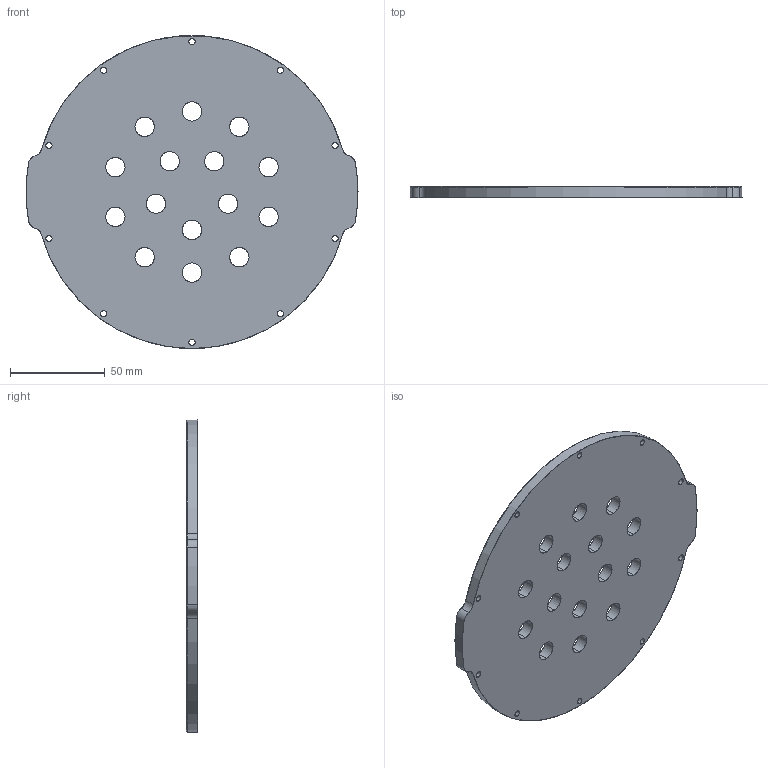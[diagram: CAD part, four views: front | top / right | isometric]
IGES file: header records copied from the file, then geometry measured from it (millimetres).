
Start section: SolidWorks IGES file using analytic representation for surfaces
Global section: file name: C:\Users\Achilles\Dropbox\BR-Engineering\PROJECTS\WTE6\MODELS\DEVELOPMENT\WTE6-M-END-CAP-15-HOLE-R1\WTE6-M-END-CAP-15-HOLE-R1.IGS; native system: SolidWorks 2016; preprocessor: SolidWorks 2016; author: Achilles; date: 181016.155856; units: millimetre
Bounding box: 175.1 x 6 x 165.1 mm (x, y, z)
Surface area: 47494.3 mm2 (no closed solid volume)
Topology: 0 solids, 0 shells, 78 faces, 1792 edges, 1792 vertices
Faces by surface type: revolution 76, bspline 2
